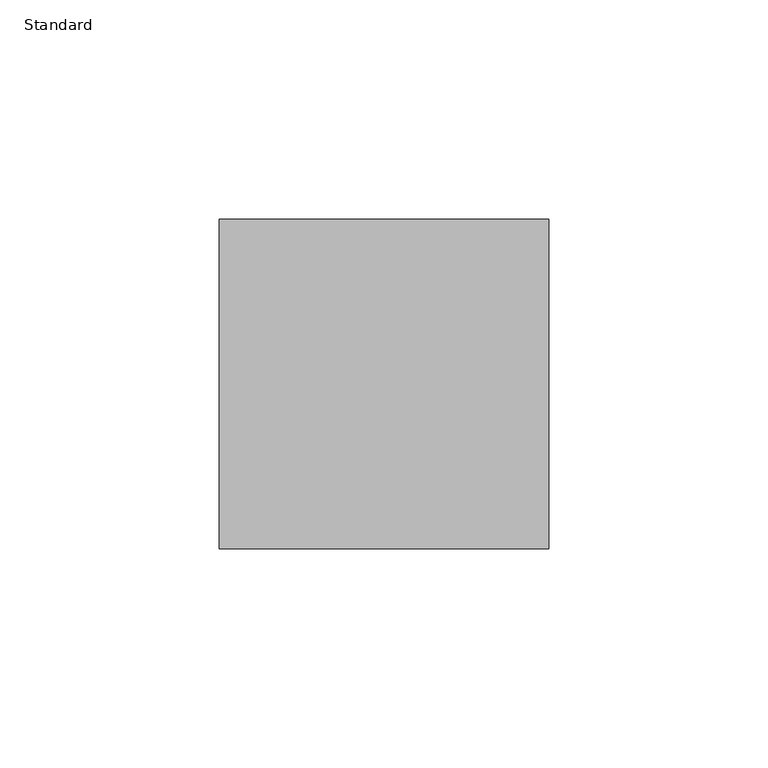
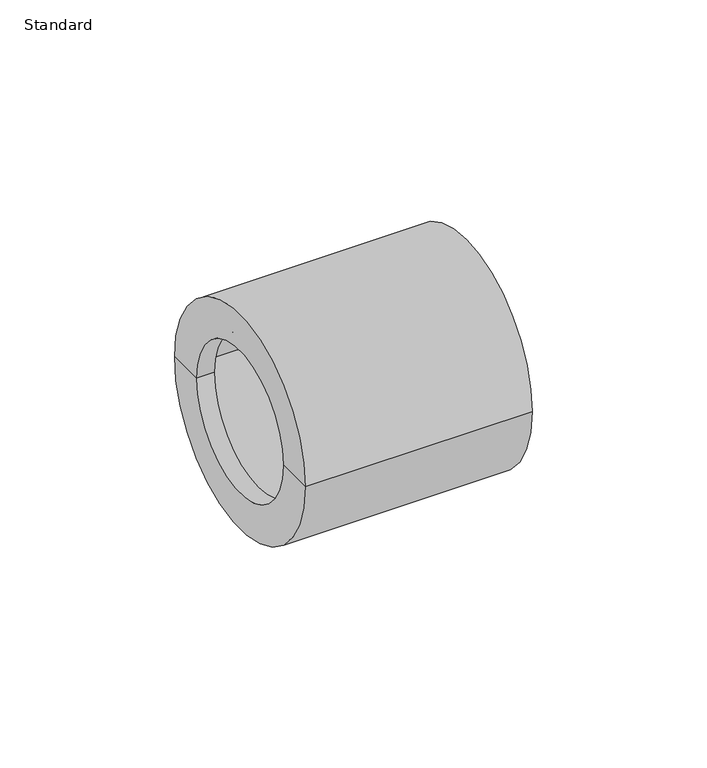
"""IFC4 building model written with IfcOpenShell, lengths in millimetres: pipe fitting geometry, Durapipe_PipeFitting_PVC_ReducingBush : Standard."""

from ifc_helpers import new_model, si_unit, frame, origin, place, context, project, spatial, polyline, circle_curve, source, transform, mapped, element, save
from ifc_brep_helpers import plane_surface, cylinder_surface, revolved_surface, advanced_brep


def standard_a3a0cd7e(model_context):
    return source(origin(), model_context, "Body", "AdvancedBrep", [
        advanced_brep(
        [(-6.0, -25.0, 0.0), (-6.0, 25.0, 0.0), (-6.0, 37.5, 0.0), (-6.0, -37.5, 0.0), (0.0, -25.0, 0.0), (0.0, 25.0, 0.0), (0.0, -31.5, 0.0), (0.0, 31.5, 0.0), (69.0, -31.5, 0.0), (69.0, 31.5, 0.0), (69.0, -37.5, 0.0), (69.0, 37.5, 0.0)],
        [
            (0, 1, circle_curve(frame((-6.0, 0.0, 0.0), z_axis=(1.0, 0.0, 0.0), x_axis=(0.0, 1.0, 0.0)), 25.0)),
            (1, 2),
            (2, 3, circle_curve(frame((-6.0, 0.0, 0.0), z_axis=(-1.0, 0.0, 0.0), x_axis=(0.0, 1.0, 0.0)), 37.5)),
            (3, 0),
            (1, 0, circle_curve(frame((-6.0, 0.0, 0.0), z_axis=(1.0, 0.0, 0.0), x_axis=(0.0, 1.0, 0.0)), 25.0)),
            (3, 2, circle_curve(frame((-6.0, 0.0, 0.0), z_axis=(-1.0, 0.0, 0.0), x_axis=(0.0, 1.0, 0.0)), 37.5)),
            (4, 5, circle_curve(frame((0.0, 0.0, 0.0), z_axis=(1.0, 0.0, 0.0), x_axis=(0.0, 1.0, 0.0)), 25.0)),
            (5, 1),
            (0, 4),
            (5, 4, circle_curve(frame((0.0, 0.0, 0.0), z_axis=(1.0, 0.0, 0.0), x_axis=(0.0, 1.0, 0.0)), 25.0)),
            (6, 7, circle_curve(frame((0.0, 0.0, 0.0), z_axis=(1.0, 0.0, 0.0), x_axis=(0.0, 1.0, 0.0)), 31.5)),
            (7, 5),
            (4, 6),
            (7, 6, circle_curve(frame((0.0, 0.0, 0.0), z_axis=(1.0, 0.0, 0.0), x_axis=(0.0, 1.0, 0.0)), 31.5)),
            (8, 9, circle_curve(frame((69.0, 0.0, 0.0), z_axis=(1.0, 0.0, 0.0), x_axis=(0.0, 1.0, 0.0)), 31.5)),
            (9, 7),
            (6, 8),
            (9, 8, circle_curve(frame((69.0, 0.0, 0.0), z_axis=(1.0, 0.0, 0.0), x_axis=(0.0, 1.0, 0.0)), 31.5)),
            (10, 11, circle_curve(frame((69.0, 0.0, 0.0), z_axis=(1.0, 0.0, 0.0), x_axis=(0.0, 1.0, 0.0)), 37.5)),
            (11, 9),
            (8, 10),
            (11, 10, circle_curve(frame((69.0, 0.0, 0.0), z_axis=(1.0, 0.0, 0.0), x_axis=(0.0, 1.0, 0.0)), 37.5)),
            (2, 11),
            (10, 3),
        ],
        [
            plane_surface(frame((-6.0, 0.0, 0.0), z_axis=(-1.0, 0.0, 0.0), x_axis=(0.0, 1.0, 0.0))),
            revolved_surface(polyline([(-6.0, 25.0, 0.0), (0.0, 25.0, 0.0)]), (2055.0, 0.0, 0.0), (-1.0, 0.0, 0.0)),
            plane_surface(frame((0.0, 0.0, 0.0), z_axis=(1.0, 0.0, 0.0), x_axis=(0.0, 1.0, 0.0))),
            revolved_surface(polyline([(0.0, 31.5, 0.0), (69.0, 31.5, 0.0)]), (2055.0, 0.0, 0.0), (-1.0, 0.0, 0.0)),
            plane_surface(frame((69.0, 0.0, 0.0), z_axis=(1.0, 0.0, 0.0), x_axis=(0.0, 1.0, 0.0))),
            cylinder_surface(frame((2055.0, 0.0, 0.0), z_axis=(-1.0, 0.0, 0.0), x_axis=(0.0, 1.0, 0.0)), 37.5),
        ],
        [
            (0, [[1, 2, 3, 4]]),
            (0, [[5, -4, 6, -2]]),
            (1, [[7, 8, -1, 9]]),
            (1, [[10, -9, -5, -8]]),
            (2, [[11, 12, -7, 13]]),
            (2, [[14, -13, -10, -12]]),
            (3, [[15, 16, -11, 17]]),
            (3, [[18, -17, -14, -16]]),
            (4, [[19, 20, -15, 21]]),
            (4, [[22, -21, -18, -20]]),
            (5, [[-3, 23, -19, 24]]),
            (5, [[-6, -24, -22, -23]]),
        ],
    ),
    ])


if __name__ == "__main__":
    model = new_model("IFC4")
    model_context = context("Model", 3, world=origin())
    ifc_project = project(units=[si_unit("LENGTHUNIT", "METRE", prefix="MILLI")], contexts=[model_context])
    site = spatial("IfcSite", under=ifc_project)
    building = spatial("IfcBuilding", under=site)
    placement = place(None, origin())
    standard_shape = standard_a3a0cd7e(model_context)
    element("IfcPipeFitting", 1, ObjectType="Durapipe_PipeFitting_PVC_ReducingBush : Standard", at=placement, inside=building, context=model_context, shape_type="MappedRepresentation", body=[
        mapped(standard_shape, transform((0.0, 0.0, 0.0), x_axis=(1.0, 0.0, 0.0), y_axis=(0.0, 1.0, 0.0), z_axis=(0.0, 0.0, 1.0))),
    ])
    save(model, "model.ifc")
